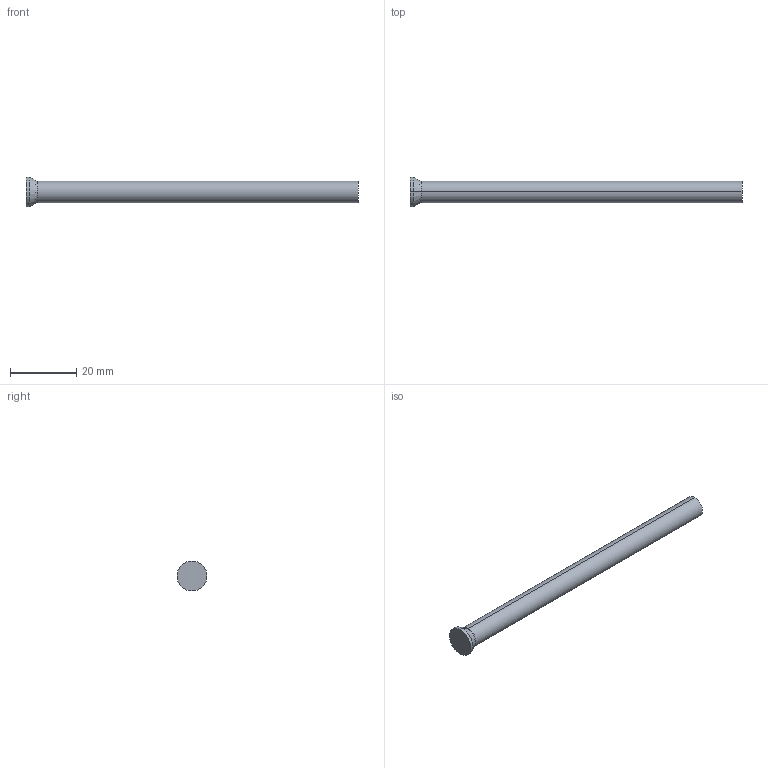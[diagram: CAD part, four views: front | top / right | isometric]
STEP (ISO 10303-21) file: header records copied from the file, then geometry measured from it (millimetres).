
FILE_DESCRIPTION (( 'STEP AP214' ), '1' );
FILE_NAME ('D-6,5x100.STEP', '2020-06-08T17:08:59', ( 'August' ), ( '' ), 'SwSTEP 2.0', 'SolidWorks 2018', '' );
FILE_SCHEMA (( 'AUTOMOTIVE_DESIGN' ));
Length unit declared in the file: millimetre
Products named in the file (1): D-6,5x100
Bounding box: 100 x 9 x 9 mm (x, y, z)
Volume: 3380.2 mm3; surface area: 2163.2 mm2
Topology: 1 solids, 1 shells, 10 faces, 18 edges, 10 vertices
Faces by surface type: cylinder 4, torus 2, cone 2, plane 2
Entity records: 280 total; most frequent: DIRECTION 52, CARTESIAN_POINT 39, ORIENTED_EDGE 36, AXIS2_PLACEMENT_3D 23, EDGE_CURVE 18, CIRCLE 12, FACE_OUTER_BOUND 10, EDGE_LOOP 10
